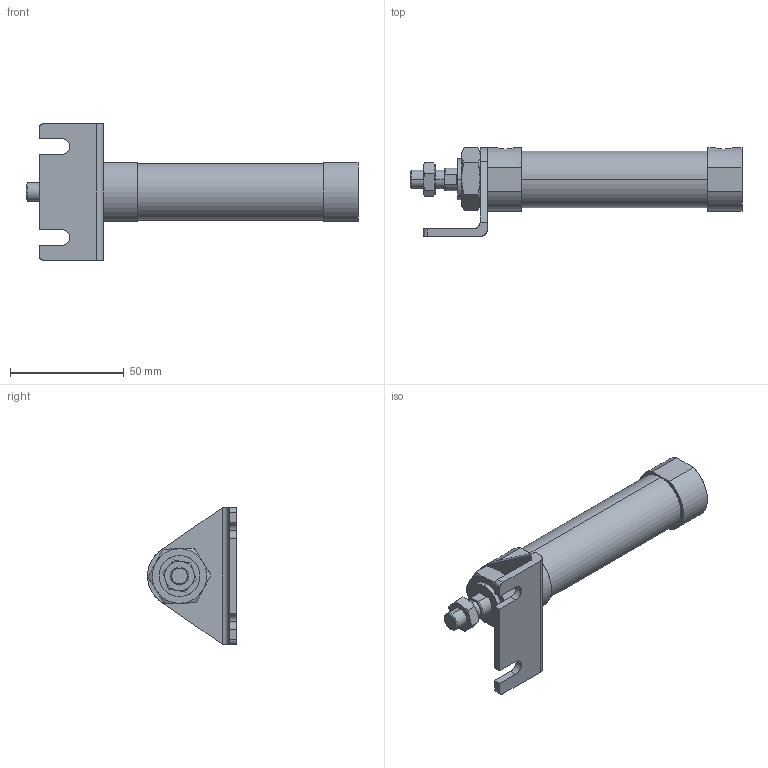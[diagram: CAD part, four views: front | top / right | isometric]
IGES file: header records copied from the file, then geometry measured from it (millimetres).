
Start section: SolidWorks IGES file using analytic representation for surfaces
Global section: file name: C:\Users\Toshiba\Desktop\JGND2-20-50-L.IGS; native system: SolidWorks 2014; preprocessor: SolidWorks 2014; author: Toshiba; date: 160804.102252; units: millimetre
Bounding box: 146 x 39 x 60 mm (x, y, z)
Surface area: 20762.3 mm2 (no closed solid volume)
Topology: 0 solids, 0 shells, 111 faces, 1814 edges, 1814 vertices
Faces by surface type: bspline 73, revolution 38
